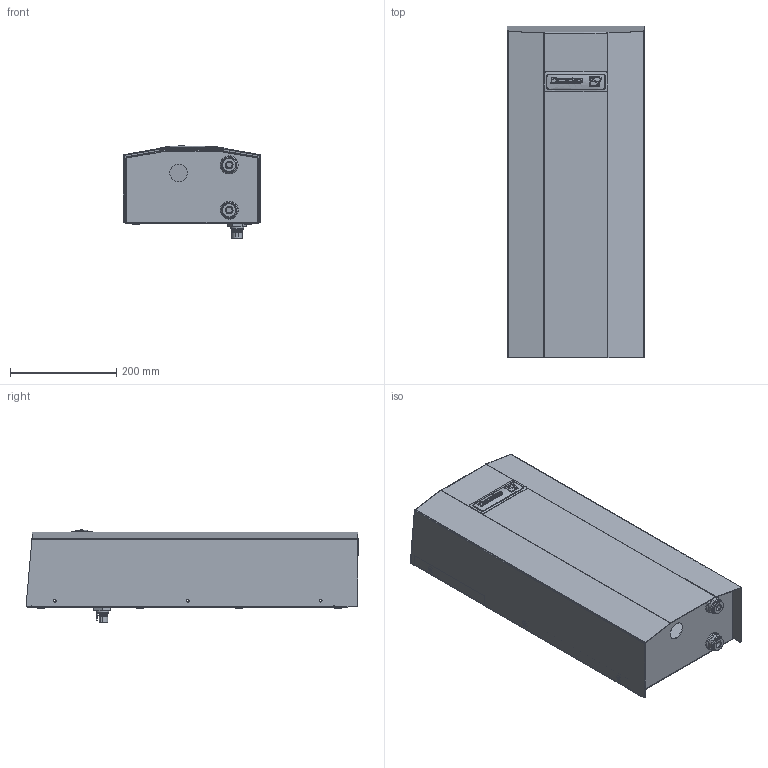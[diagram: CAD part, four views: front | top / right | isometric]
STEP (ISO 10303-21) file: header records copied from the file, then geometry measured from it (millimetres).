
FILE_DESCRIPTION (( 'STEP AP203' ), '1' );
FILE_NAME ('PWS 3062-82.STEP', '2017-11-21T19:27:19', ( '' ), ( '' ), 'SwSTEP 2.0', 'SolidWorks 2015', '' );
FILE_SCHEMA (( 'CONFIG_CONTROL_DESIGN' ));
Length unit declared in the file: millimetre
Products named in the file (10): 015080031; 085110180; 80000-008_885000136; 80030-010_No Knockout; PWS 3062-82; 020140030_020140030; 850380034; 825500030_825500030; 80030-014_802002099; 885000105_885000105
Assembly tree (17 placements, depth 2):
  PWS 3062-82
    80030-010_No Knockout
    020140030_020140030  x8
    850380034  x2
    825500030_825500030
    80030-014_802002099
    885000105_885000105
    015080031
    085110180
    80000-008_885000136
Bounding box: 257.68 x 624.22 x 173.05 mm (x, y, z)
Volume: 841374.7 mm3; surface area: 1297119.7 mm2
Topology: 68 solids, 69 shells, 3717 faces, 9705 edges, 6350 vertices
Faces by surface type: plane 2003, bspline 920, cylinder 614, cone 134, torus 38, sphere 8
Entity records: 194496 total; most frequent: CARTESIAN_POINT 119192, ORIENTED_EDGE 16984, DIRECTION 11961, EDGE_CURVE 8492, VERTEX_POINT 5576, LINE 5429, VECTOR 5429, EDGE_LOOP 3668
